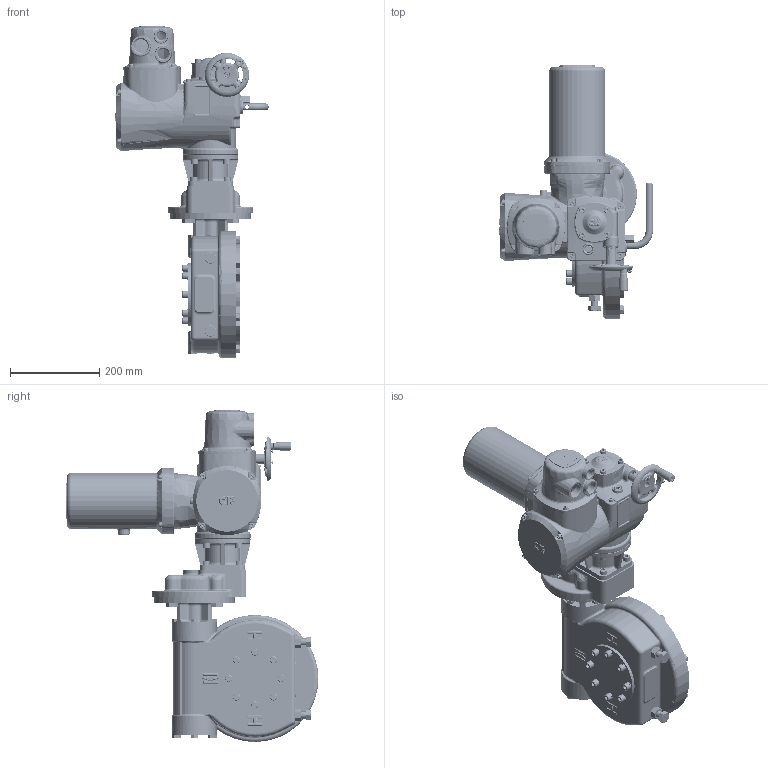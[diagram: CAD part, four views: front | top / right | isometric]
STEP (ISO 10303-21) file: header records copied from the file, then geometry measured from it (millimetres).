
FILE_DESCRIPTION(/* description */ ('Unknown'),/* implementation_level */ '2;1');
FILE_NAME(/* name */ 'A1W5RLS000X-1',/* time_stamp */ '2017-06-28T16:37:38+05:00',/* author */ ('Unknown'),/* organization */ ('Unknown'),/* preprocessor_version */ 'ST-DEVELOPER v16.7',/* originating_system */ 'DEX',/* authorisation */ $);
FILE_SCHEMA (('TECHNICAL_DATA_PACKAGING','AUTOMOTIVE_DESIGN {1 0 10303 214 3 1 1}'));
Length unit declared in the file: millimetre
Products named in the file (1): A1W5RLS000
Bounding box: 344.36 x 567.26 x 744.83 mm (x, y, z)
Volume: 17962.9 mm3; surface area: 1108837.4 mm2
Topology: 8 solids, 96 shells, 4921 faces, 12533 edges, 7872 vertices
Faces by surface type: plane 2241, bspline 961, cylinder 803, cone 532, torus 319, sphere 65
Full cylindrical faces by diameter (mm): 4.5 x4, 4.917 x21, 5 x2, 5.5 x4, 6 x17, 6.3 x4, 6.45 x4, 6.47 x5, 6.5 x8, 6.6 x4, 6.647 x5, 7 x2, 8 x4, 8.2 x1, 8.376 x4, 9 x4, 10 x21, 10.22 x4, 10.5 x4, 10.6 x4, 11.78 x2, 13 x9, 13.5 x1, 14 x1, 14.5 x4, 15.5 x1, 15.84 x1, 16 x23, 16.6 x8, 17.294 x4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
Entity records: 216181 total; most frequent: CARTESIAN_POINT 87643, ORIENTED_EDGE 22569, DIRECTION 18698, EDGE_CURVE 11647, VERTEX_POINT 7667, AXIS2_PLACEMENT_3D 6664, FACE_BOUND 5993, EDGE_LOOP 5938
